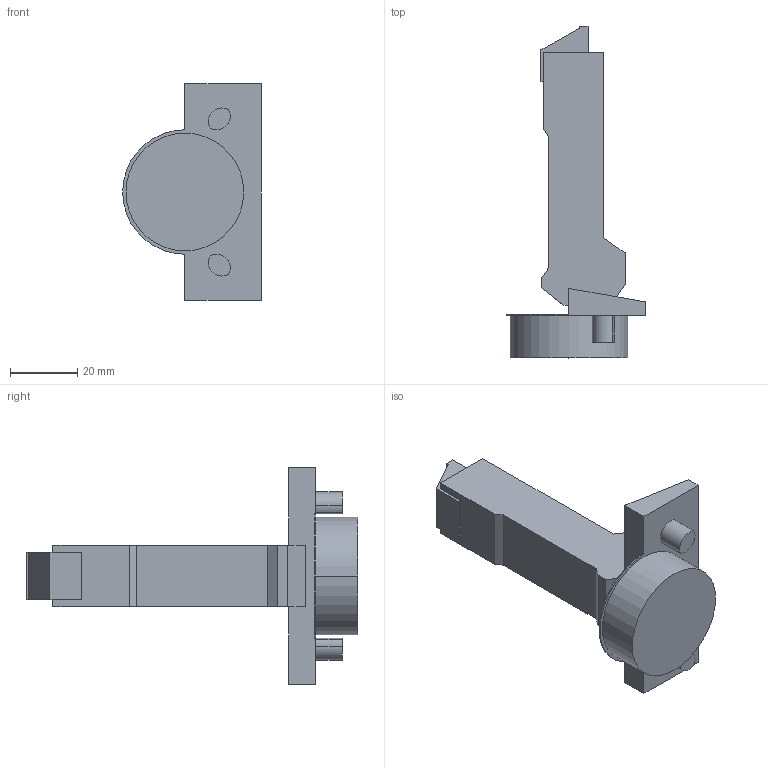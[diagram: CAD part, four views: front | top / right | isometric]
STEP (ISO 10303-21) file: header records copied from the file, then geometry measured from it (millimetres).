
FILE_DESCRIPTION (( 'STEP AP214' ), '1' );
FILE_NAME ('Scharnier T Impresso 110° GB_BB, K95.step', '2018-09-12T09:11:17', ( '' ), ( '' ), 'SwSTEP 2.0', 'SolidWorks 2017', '' );
FILE_SCHEMA (( 'AUTOMOTIVE_DESIGN' ));
Length unit declared in the file: millimetre
Products named in the file (1): Scharnier T Impresso 110° GB_BB, K95
Bounding box: 41.25 x 98.7 x 64.5 mm (x, y, z)
Volume: 46540.6 mm3; surface area: 12679.5 mm2
Topology: 1 solids, 1 shells, 53 faces, 135 edges, 90 vertices
Faces by surface type: plane 38, cylinder 15
Entity records: 1633 total; most frequent: CARTESIAN_POINT 279, DIRECTION 273, ORIENTED_EDGE 270, EDGE_CURVE 135, VECTOR 105, LINE 105, VERTEX_POINT 90, AXIS2_PLACEMENT_3D 84
